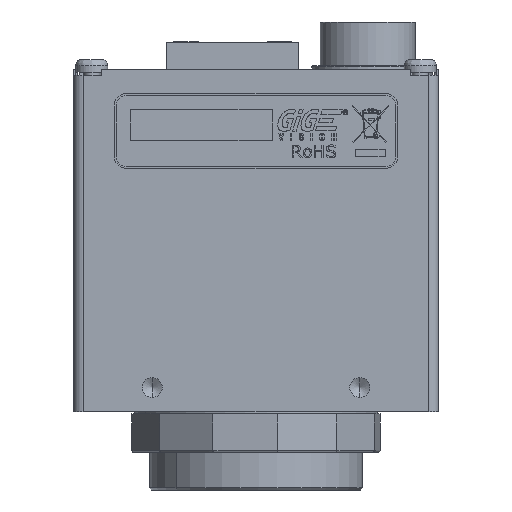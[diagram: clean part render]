
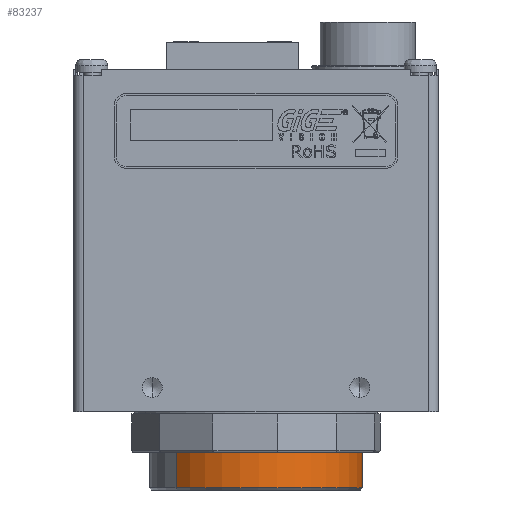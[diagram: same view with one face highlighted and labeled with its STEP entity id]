
A CAD part, front view. The second image highlights one B-rep face of the part: STEP entity #83237.
In plain terms, the highlighted cylindrical face has radius 13.335 mm (diameter 26.67 mm), a partial arc.
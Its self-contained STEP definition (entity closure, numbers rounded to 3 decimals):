
#6726 = LINE ( 'NONE', #139895, #38592 ) ;
#16942 = EDGE_CURVE ( 'NONE', #146937, #83049, #6726, .T. ) ;
#17586 = ORIENTED_EDGE ( 'NONE', *, *, #122604, .T. ) ;
#18251 = EDGE_LOOP ( 'NONE', ( #38512, #74644, #17586, #39300 ) ) ;
#34158 = CARTESIAN_POINT ( 'NONE',  ( 13.335, 0., 13.386 ) ) ;
#36271 = VERTEX_POINT ( 'NONE', #34158 ) ;
#38512 = ORIENTED_EDGE ( 'NONE', *, *, #16942, .F. ) ;
#38592 = VECTOR ( 'NONE', #59193, 1000. ) ;
#39300 = ORIENTED_EDGE ( 'NONE', *, *, #155796, .T. ) ;
#48907 = AXIS2_PLACEMENT_3D ( 'NONE', #156079, #74894, #169678 ) ;
#54484 = DIRECTION ( 'NONE',  ( 1., 0., 0. ) ) ;
#58575 = VERTEX_POINT ( 'NONE', #172455 ) ;
#59193 = DIRECTION ( 'NONE',  ( 0., 0., 1. ) ) ;
#61827 = CARTESIAN_POINT ( 'NONE',  ( -13.335, 0., 13.386 ) ) ;
#63742 = CIRCLE ( 'NONE', #119810, 13.335 ) ;
#63824 = CYLINDRICAL_SURFACE ( 'NONE', #124166, 13.335 ) ;
#73282 = CARTESIAN_POINT ( 'NONE',  ( 0., 0., 7.214 ) ) ;
#74644 = ORIENTED_EDGE ( 'NONE', *, *, #112729, .T. ) ;
#74894 = DIRECTION ( 'NONE',  ( 0., 0., -1. ) ) ;
#76694 = FACE_OUTER_BOUND ( 'NONE', #18251, .T. ) ;
#83049 = VERTEX_POINT ( 'NONE', #61827 ) ;
#83237 = ADVANCED_FACE ( 'NONE', ( #76694 ), #63824, .T. ) ;
#84490 = VECTOR ( 'NONE', #108538, 1000. ) ;
#86847 = DIRECTION ( 'NONE',  ( 1., 0., 0. ) ) ;
#108538 = DIRECTION ( 'NONE',  ( 0., 0., 1. ) ) ;
#112729 = EDGE_CURVE ( 'NONE', #146937, #58575, #63742, .T. ) ;
#119810 = AXIS2_PLACEMENT_3D ( 'NONE', #73282, #168094, #86847 ) ;
#120443 = DIRECTION ( 'NONE',  ( 0., 0., 1. ) ) ;
#122604 = EDGE_CURVE ( 'NONE', #58575, #36271, #129106, .T. ) ;
#124111 = CIRCLE ( 'NONE', #48907, 13.335 ) ;
#124166 = AXIS2_PLACEMENT_3D ( 'NONE', #148955, #120443, #54484 ) ;
#129106 = LINE ( 'NONE', #135190, #84490 ) ;
#135190 = CARTESIAN_POINT ( 'NONE',  ( 13.335, 0., 7.214 ) ) ;
#139895 = CARTESIAN_POINT ( 'NONE',  ( -13.335, 0., 7.214 ) ) ;
#145336 = CARTESIAN_POINT ( 'NONE',  ( -13.335, 0., 7.214 ) ) ;
#146937 = VERTEX_POINT ( 'NONE', #145336 ) ;
#148955 = CARTESIAN_POINT ( 'NONE',  ( 0., 0., 7.214 ) ) ;
#155796 = EDGE_CURVE ( 'NONE', #36271, #83049, #124111, .T. ) ;
#156079 = CARTESIAN_POINT ( 'NONE',  ( 0., 0., 13.386 ) ) ;
#168094 = DIRECTION ( 'NONE',  ( 0., 0., 1. ) ) ;
#169678 = DIRECTION ( 'NONE',  ( 1., 0., 0. ) ) ;
#172455 = CARTESIAN_POINT ( 'NONE',  ( 13.335, 0., 7.214 ) ) ;
